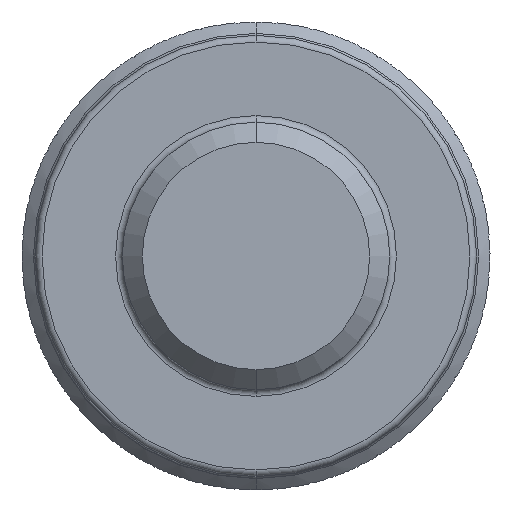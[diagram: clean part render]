
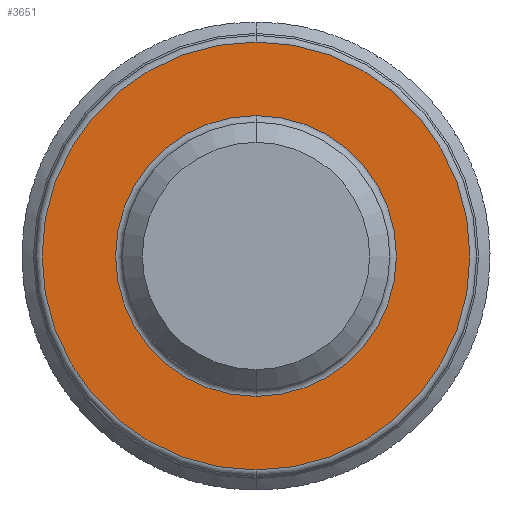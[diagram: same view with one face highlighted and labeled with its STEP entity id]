
A CAD part, front view. The second image highlights one B-rep face of the part: STEP entity #3651.
In plain terms, the highlighted planar face has unit normal (0, -1, 0).
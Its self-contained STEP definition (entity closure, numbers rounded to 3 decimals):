
#247 = CARTESIAN_POINT ( 'NONE',  ( 0., -4., 0. ) ) ;
#254 = ORIENTED_EDGE ( 'NONE', *, *, #5823, .T. ) ;
#638 = EDGE_CURVE ( 'NONE', #6107, #8501, #5633, .T. ) ;
#639 = AXIS2_PLACEMENT_3D ( 'NONE', #7390, #3493, #6570 ) ;
#643 = CARTESIAN_POINT ( 'NONE',  ( 0., -4., 2.1 ) ) ;
#668 = EDGE_LOOP ( 'NONE', ( #1123, #6454 ) ) ;
#957 = CARTESIAN_POINT ( 'NONE',  ( 0., -4., 0. ) ) ;
#1098 = CARTESIAN_POINT ( 'NONE',  ( 0., -4., 3.2 ) ) ;
#1123 = ORIENTED_EDGE ( 'NONE', *, *, #9654, .T. ) ;
#1280 = VERTEX_POINT ( 'NONE', #1098 ) ;
#1590 = AXIS2_PLACEMENT_3D ( 'NONE', #9838, #6740, #2044 ) ;
#1677 = AXIS2_PLACEMENT_3D ( 'NONE', #8336, #3633, #9804 ) ;
#2044 = DIRECTION ( 'NONE',  ( 0., 0., -1. ) ) ;
#2071 = VERTEX_POINT ( 'NONE', #8757 ) ;
#2562 = DIRECTION ( 'NONE',  ( 0., 0., -1. ) ) ;
#3427 = DIRECTION ( 'NONE',  ( 0., -1., 0. ) ) ;
#3493 = DIRECTION ( 'NONE',  ( 0., 1., 0. ) ) ;
#3633 = DIRECTION ( 'NONE',  ( 0., -1., 0. ) ) ;
#3651 = ADVANCED_FACE ( 'NONE', ( #5149, #6707 ), #7474, .T. ) ;
#4040 = DIRECTION ( 'NONE',  ( 0., -1., 0. ) ) ;
#5149 = FACE_BOUND ( 'NONE', #668, .T. ) ;
#5465 = CIRCLE ( 'NONE', #1590, 2.1 ) ;
#5633 = CIRCLE ( 'NONE', #639, 2.1 ) ;
#5800 = DIRECTION ( 'NONE',  ( 0., 0., -1. ) ) ;
#5823 = EDGE_CURVE ( 'NONE', #1280, #2071, #6380, .T. ) ;
#5896 = AXIS2_PLACEMENT_3D ( 'NONE', #957, #4040, #2562 ) ;
#6107 = VERTEX_POINT ( 'NONE', #643 ) ;
#6252 = AXIS2_PLACEMENT_3D ( 'NONE', #247, #3427, #5800 ) ;
#6320 = ORIENTED_EDGE ( 'NONE', *, *, #8725, .T. ) ;
#6380 = CIRCLE ( 'NONE', #5896, 3.2 ) ;
#6454 = ORIENTED_EDGE ( 'NONE', *, *, #638, .T. ) ;
#6570 = DIRECTION ( 'NONE',  ( 0., 0., -1. ) ) ;
#6707 = FACE_OUTER_BOUND ( 'NONE', #9922, .T. ) ;
#6740 = DIRECTION ( 'NONE',  ( 0., 1., 0. ) ) ;
#7390 = CARTESIAN_POINT ( 'NONE',  ( 0., -4., 0. ) ) ;
#7474 = PLANE ( 'NONE',  #1677 ) ;
#7709 = CIRCLE ( 'NONE', #6252, 3.2 ) ;
#8336 = CARTESIAN_POINT ( 'NONE',  ( 2., -4., 0. ) ) ;
#8501 = VERTEX_POINT ( 'NONE', #9476 ) ;
#8725 = EDGE_CURVE ( 'NONE', #2071, #1280, #7709, .T. ) ;
#8757 = CARTESIAN_POINT ( 'NONE',  ( 0., -4., -3.2 ) ) ;
#9476 = CARTESIAN_POINT ( 'NONE',  ( 0., -4., -2.1 ) ) ;
#9654 = EDGE_CURVE ( 'NONE', #8501, #6107, #5465, .T. ) ;
#9804 = DIRECTION ( 'NONE',  ( 0., 0., -1. ) ) ;
#9838 = CARTESIAN_POINT ( 'NONE',  ( 0., -4., 0. ) ) ;
#9922 = EDGE_LOOP ( 'NONE', ( #6320, #254 ) ) ;
